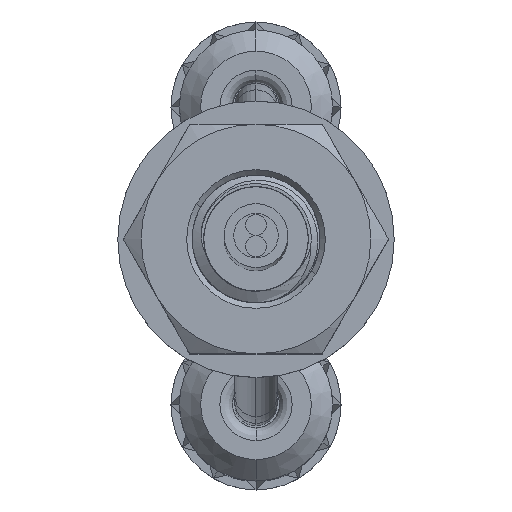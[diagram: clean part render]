
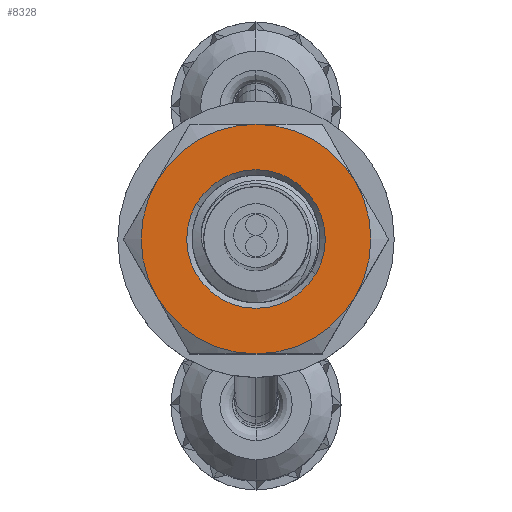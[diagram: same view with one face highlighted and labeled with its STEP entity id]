
A CAD part, top view. The second image highlights one B-rep face of the part: STEP entity #8328.
In plain terms, the highlighted planar face has unit normal (0, 0, 1).
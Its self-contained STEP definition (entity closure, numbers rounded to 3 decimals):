
#307 = AXIS2_PLACEMENT_3D ( 'NONE', #15343, #17016, #16823 ) ;
#551 = ORIENTED_EDGE ( 'NONE', *, *, #12303, .T. ) ;
#725 = ORIENTED_EDGE ( 'NONE', *, *, #8844, .T. ) ;
#1076 = DIRECTION ( 'NONE',  ( 0., 0., 1. ) ) ;
#1113 = DIRECTION ( 'NONE',  ( 0., 0., 1. ) ) ;
#1355 = ORIENTED_EDGE ( 'NONE', *, *, #1725, .T. ) ;
#1476 = CARTESIAN_POINT ( 'NONE',  ( -21.594, 12.508, 14. ) ) ;
#1725 = EDGE_CURVE ( 'NONE', #9781, #16760, #5214, .T. ) ;
#1950 = DIRECTION ( 'NONE',  ( 0., 0., 1. ) ) ;
#2306 = DIRECTION ( 'NONE',  ( 0.866, -0.5, 0. ) ) ;
#2457 = CIRCLE ( 'NONE', #16243, 2.7 ) ;
#2562 = ORIENTED_EDGE ( 'NONE', *, *, #13770, .T. ) ;
#2606 = DIRECTION ( 'NONE',  ( 0., 0., 1. ) ) ;
#2630 = PLANE ( 'NONE',  #16771 ) ;
#3389 = VERTEX_POINT ( 'NONE', #18477 ) ;
#3537 = AXIS2_PLACEMENT_3D ( 'NONE', #15546, #1076, #2306 ) ;
#3667 = EDGE_CURVE ( 'NONE', #3389, #11716, #11529, .T. ) ;
#3875 = CARTESIAN_POINT ( 'NONE',  ( -21.594, 12.508, 14. ) ) ;
#3940 = EDGE_CURVE ( 'NONE', #11716, #3389, #5992, .T. ) ;
#4233 = DIRECTION ( 'NONE',  ( 0.866, -0.5, 0. ) ) ;
#4332 = VERTEX_POINT ( 'NONE', #16167 ) ;
#4971 = CIRCLE ( 'NONE', #7143, 2.7 ) ;
#5214 = CIRCLE ( 'NONE', #15956, 2.7 ) ;
#5367 = VERTEX_POINT ( 'NONE', #13232 ) ;
#5461 = CARTESIAN_POINT ( 'NONE',  ( -21.594, 12.508, 14. ) ) ;
#5992 = CIRCLE ( 'NONE', #10058, 1.63 ) ;
#6833 = ORIENTED_EDGE ( 'NONE', *, *, #3667, .T. ) ;
#7143 = AXIS2_PLACEMENT_3D ( 'NONE', #5461, #2606, #12832 ) ;
#8328 = ADVANCED_FACE ( 'NONE', ( #8820, #18956 ), #2630, .T. ) ;
#8444 = VERTEX_POINT ( 'NONE', #14519 ) ;
#8498 = CARTESIAN_POINT ( 'NONE',  ( -21.594, 12.508, 14. ) ) ;
#8800 = DIRECTION ( 'NONE',  ( 0.866, -0.5, 0. ) ) ;
#8820 = FACE_BOUND ( 'NONE', #16487, .T. ) ;
#8844 = EDGE_CURVE ( 'NONE', #16760, #8444, #12955, .T. ) ;
#9132 = CIRCLE ( 'NONE', #307, 2.7 ) ;
#9153 = CARTESIAN_POINT ( 'NONE',  ( -19.255, 11.158, 14. ) ) ;
#9349 = EDGE_LOOP ( 'NONE', ( #551, #1355, #725, #2562, #18239, #14632 ) ) ;
#9781 = VERTEX_POINT ( 'NONE', #9153 ) ;
#9784 = DIRECTION ( 'NONE',  ( 0.866, -0.5, 0. ) ) ;
#10058 = AXIS2_PLACEMENT_3D ( 'NONE', #10941, #16854, #14017 ) ;
#10215 = CARTESIAN_POINT ( 'NONE',  ( -19.255, 13.858, 14. ) ) ;
#10831 = CARTESIAN_POINT ( 'NONE',  ( -21.594, 12.508, 14. ) ) ;
#10849 = ORIENTED_EDGE ( 'NONE', *, *, #3940, .T. ) ;
#10941 = CARTESIAN_POINT ( 'NONE',  ( -21.594, 12.508, 14. ) ) ;
#11124 = VERTEX_POINT ( 'NONE', #14304 ) ;
#11457 = DIRECTION ( 'NONE',  ( 0., 0., 1. ) ) ;
#11529 = CIRCLE ( 'NONE', #13829, 1.63 ) ;
#11716 = VERTEX_POINT ( 'NONE', #15559 ) ;
#12043 = AXIS2_PLACEMENT_3D ( 'NONE', #3875, #12553, #9784 ) ;
#12303 = EDGE_CURVE ( 'NONE', #4332, #9781, #17662, .T. ) ;
#12553 = DIRECTION ( 'NONE',  ( 0., 0., 1. ) ) ;
#12832 = DIRECTION ( 'NONE',  ( 0.866, -0.5, 0. ) ) ;
#12955 = CIRCLE ( 'NONE', #3537, 2.7 ) ;
#13232 = CARTESIAN_POINT ( 'NONE',  ( -23.932, 11.158, 14. ) ) ;
#13254 = DIRECTION ( 'NONE',  ( 0., 0., -1. ) ) ;
#13770 = EDGE_CURVE ( 'NONE', #8444, #11124, #9132, .T. ) ;
#13829 = AXIS2_PLACEMENT_3D ( 'NONE', #1476, #13254, #8800 ) ;
#14017 = DIRECTION ( 'NONE',  ( 0.866, -0.5, 0. ) ) ;
#14304 = CARTESIAN_POINT ( 'NONE',  ( -23.932, 13.858, 14. ) ) ;
#14519 = CARTESIAN_POINT ( 'NONE',  ( -21.594, 15.208, 14. ) ) ;
#14632 = ORIENTED_EDGE ( 'NONE', *, *, #17819, .T. ) ;
#15205 = DIRECTION ( 'NONE',  ( 0.866, -0.5, 0. ) ) ;
#15343 = CARTESIAN_POINT ( 'NONE',  ( -21.594, 12.508, 14. ) ) ;
#15546 = CARTESIAN_POINT ( 'NONE',  ( -21.594, 12.508, 14. ) ) ;
#15559 = CARTESIAN_POINT ( 'NONE',  ( -23.005, 13.323, 14. ) ) ;
#15865 = CARTESIAN_POINT ( 'NONE',  ( -21.594, 12.508, 14. ) ) ;
#15956 = AXIS2_PLACEMENT_3D ( 'NONE', #10831, #1950, #15205 ) ;
#16167 = CARTESIAN_POINT ( 'NONE',  ( -21.594, 9.808, 14. ) ) ;
#16243 = AXIS2_PLACEMENT_3D ( 'NONE', #8498, #1113, #4233 ) ;
#16487 = EDGE_LOOP ( 'NONE', ( #6833, #10849 ) ) ;
#16760 = VERTEX_POINT ( 'NONE', #10215 ) ;
#16771 = AXIS2_PLACEMENT_3D ( 'NONE', #15865, #11457, #18693 ) ;
#16823 = DIRECTION ( 'NONE',  ( 0.866, -0.5, 0. ) ) ;
#16854 = DIRECTION ( 'NONE',  ( 0., 0., -1. ) ) ;
#17016 = DIRECTION ( 'NONE',  ( 0., 0., 1. ) ) ;
#17662 = CIRCLE ( 'NONE', #12043, 2.7 ) ;
#17819 = EDGE_CURVE ( 'NONE', #5367, #4332, #4971, .T. ) ;
#18239 = ORIENTED_EDGE ( 'NONE', *, *, #18465, .T. ) ;
#18465 = EDGE_CURVE ( 'NONE', #11124, #5367, #2457, .T. ) ;
#18477 = CARTESIAN_POINT ( 'NONE',  ( -20.182, 11.693, 14. ) ) ;
#18693 = DIRECTION ( 'NONE',  ( 0.866, -0.5, 0. ) ) ;
#18956 = FACE_OUTER_BOUND ( 'NONE', #9349, .T. ) ;
